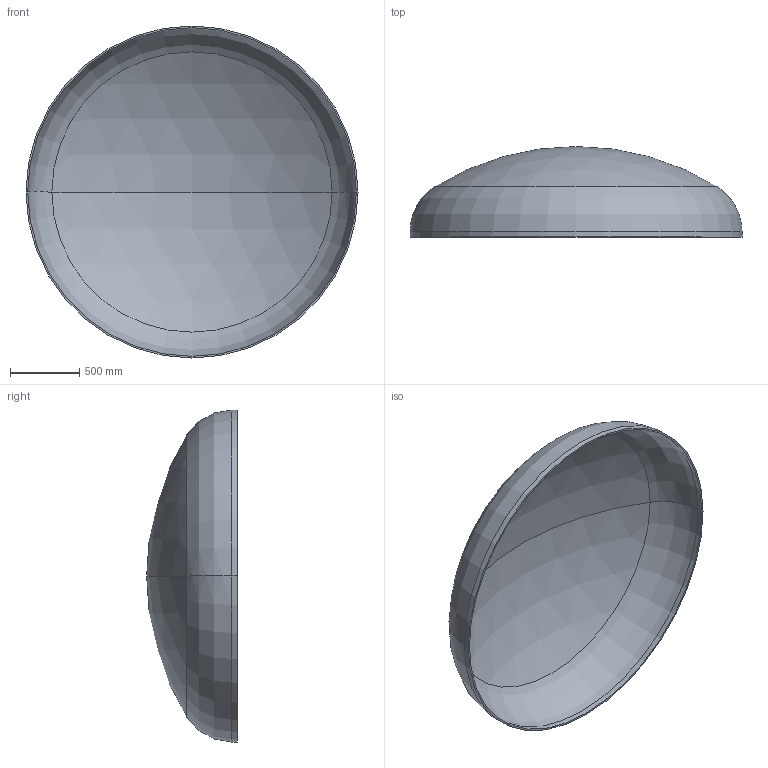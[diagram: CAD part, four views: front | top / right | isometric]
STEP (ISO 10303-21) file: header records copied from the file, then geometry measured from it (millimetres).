
FILE_DESCRIPTION (( 'STEP AP203' ), '1' );
FILE_NAME ('DIN 28013 Korbbogenform_-_Boden DIN 28013 - 2400 x 40 - I - s=12.step', '2016-07-01T15:05:22', ( '' ), ( '' ), 'SwSTEP 2.0', 'SolidWorks 2013', '' );
FILE_SCHEMA (( 'CONFIG_CONTROL_DESIGN' ));
Length unit declared in the file: millimetre
Products named in the file (1): DIN 28013 Korbbogenform_-_Boden DIN 28013 - 2400 x 40 - I - s=12
Bounding box: 2400 x 655.42 x 2400 mm (x, y, z)
Volume: 78310380.1 mm3; surface area: 13142052 mm2
Topology: 1 solids, 1 shells, 13 faces, 24 edges, 14 vertices
Faces by surface type: torus 4, cylinder 4, sphere 4, plane 1
Entity records: 407 total; most frequent: DIRECTION 72, CARTESIAN_POINT 52, ORIENTED_EDGE 48, AXIS2_PLACEMENT_3D 34, EDGE_CURVE 24, CIRCLE 20, VERTEX_POINT 14, EDGE_LOOP 14
